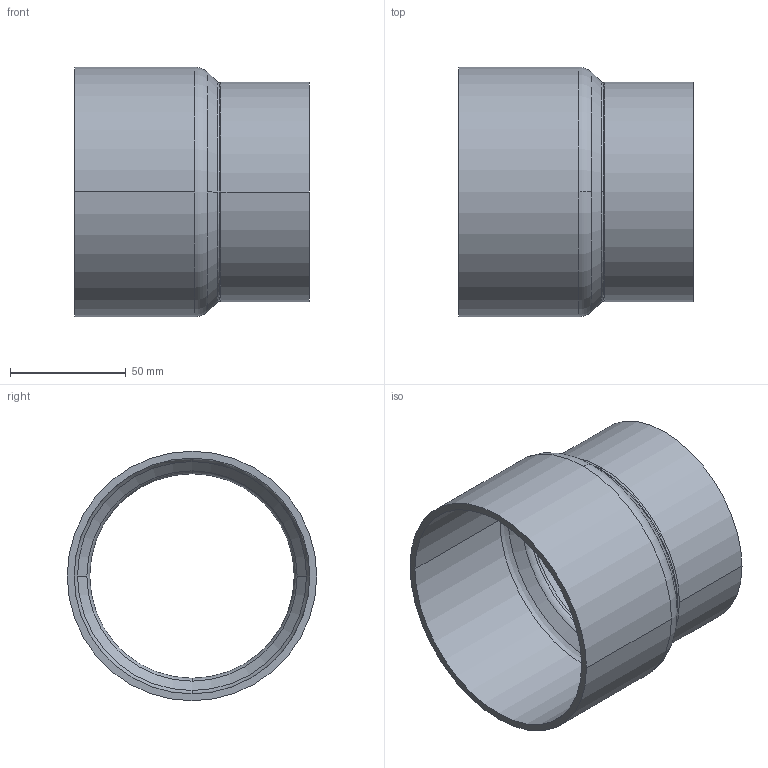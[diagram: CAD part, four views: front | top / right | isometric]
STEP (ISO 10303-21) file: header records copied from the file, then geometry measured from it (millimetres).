
FILE_DESCRIPTION((''),'2;1');
FILE_NAME('G:\Technics\CAD\Bauteile\Serie 15243\1524310889.stp','2005-10-21T12:49:55',('boden'),(''),'Autodesk Inventor 8','Autodesk Inventor 8','');
FILE_SCHEMA(('AUTOMOTIVE_DESIGN { 1 0 10303 214 1 1 1 1 }'));
Length unit declared in the file: millimetre
Products named in the file (1): 1524310889
Bounding box: 101.6 x 108 x 108 mm (x, y, z)
Volume: 97462 mm3; surface area: 66836.2 mm2
Topology: 1 solids, 1 shells, 26 faces, 68 edges, 44 vertices
Faces by surface type: cylinder 8, torus 6, bspline 6, cone 4, plane 2
Entity records: 1103 total; most frequent: CARTESIAN_POINT 403, DIRECTION 166, ORIENTED_EDGE 136, AXIS2_PLACEMENT_3D 77, EDGE_CURVE 68, CIRCLE 56, VERTEX_POINT 44, EDGE_LOOP 28
